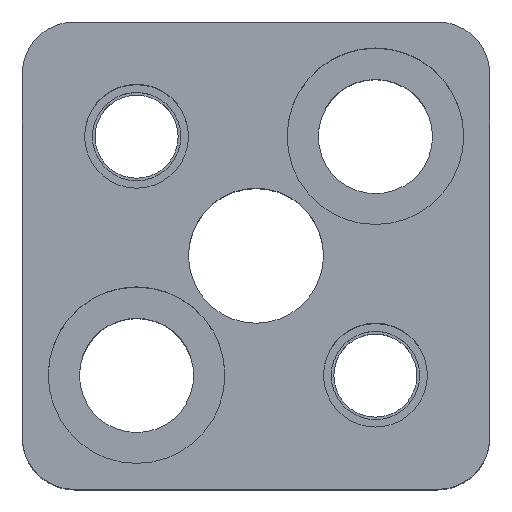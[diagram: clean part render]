
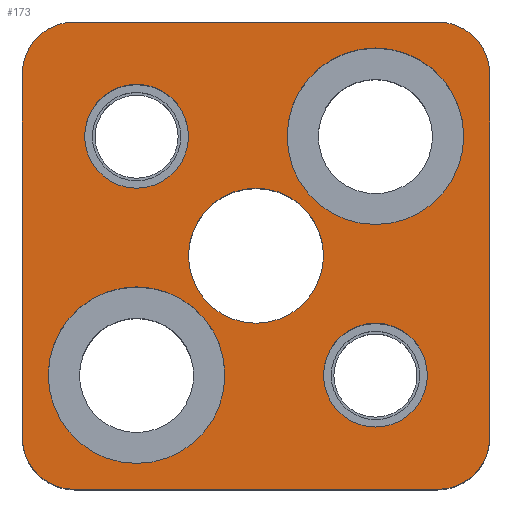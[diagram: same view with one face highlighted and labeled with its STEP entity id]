
A CAD part, top view. The second image highlights one B-rep face of the part: STEP entity #173.
In plain terms, the highlighted planar face has unit normal (0, 0, 1).
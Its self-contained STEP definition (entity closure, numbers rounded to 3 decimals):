
#112=PLANE('',#991);
#133=FACE_BOUND('',#298,.T.);
#134=FACE_BOUND('',#299,.T.);
#135=FACE_BOUND('',#300,.T.);
#136=FACE_BOUND('',#301,.T.);
#137=FACE_BOUND('',#302,.T.);
#138=FACE_BOUND('',#303,.T.);
#173=ADVANCED_FACE('',(#133,#134,#135,#136,#137,#138),#112,.T.);
#298=EDGE_LOOP('',(#490,#491,#492,#493,#494,#495,#496,#497));
#299=EDGE_LOOP('',(#498,#499));
#300=EDGE_LOOP('',(#500,#501));
#301=EDGE_LOOP('',(#502,#503));
#302=EDGE_LOOP('',(#504,#505));
#303=EDGE_LOOP('',(#506,#507));
#360=CIRCLE('',#955,5.);
#362=CIRCLE('',#958,5.);
#364=CIRCLE('',#962,5.);
#366=CIRCLE('',#965,5.);
#376=CIRCLE('',#981,5.);
#377=CIRCLE('',#982,5.);
#378=CIRCLE('',#983,5.);
#379=CIRCLE('',#984,5.);
#380=CIRCLE('',#985,8.5);
#381=CIRCLE('',#986,8.5);
#382=CIRCLE('',#987,8.5);
#383=CIRCLE('',#988,8.5);
#384=CIRCLE('',#989,6.5);
#385=CIRCLE('',#990,6.5);
#490=ORIENTED_EDGE('',*,*,#762,.T.);
#491=ORIENTED_EDGE('',*,*,#763,.T.);
#492=ORIENTED_EDGE('',*,*,#764,.T.);
#493=ORIENTED_EDGE('',*,*,#765,.T.);
#494=ORIENTED_EDGE('',*,*,#766,.T.);
#495=ORIENTED_EDGE('',*,*,#767,.T.);
#496=ORIENTED_EDGE('',*,*,#768,.T.);
#497=ORIENTED_EDGE('',*,*,#769,.T.);
#498=ORIENTED_EDGE('',*,*,#770,.F.);
#499=ORIENTED_EDGE('',*,*,#771,.F.);
#500=ORIENTED_EDGE('',*,*,#772,.F.);
#501=ORIENTED_EDGE('',*,*,#773,.F.);
#502=ORIENTED_EDGE('',*,*,#748,.F.);
#503=ORIENTED_EDGE('',*,*,#744,.F.);
#504=ORIENTED_EDGE('',*,*,#742,.F.);
#505=ORIENTED_EDGE('',*,*,#738,.F.);
#506=ORIENTED_EDGE('',*,*,#774,.T.);
#507=ORIENTED_EDGE('',*,*,#775,.T.);
#654=VERTEX_POINT('',#1377);
#655=VERTEX_POINT('',#1378);
#658=VERTEX_POINT('',#1390);
#659=VERTEX_POINT('',#1391);
#670=VERTEX_POINT('',#1427);
#671=VERTEX_POINT('',#1428);
#672=VERTEX_POINT('',#1430);
#673=VERTEX_POINT('',#1432);
#674=VERTEX_POINT('',#1434);
#675=VERTEX_POINT('',#1436);
#676=VERTEX_POINT('',#1438);
#677=VERTEX_POINT('',#1440);
#678=VERTEX_POINT('',#1443);
#679=VERTEX_POINT('',#1444);
#680=VERTEX_POINT('',#1447);
#681=VERTEX_POINT('',#1448);
#682=VERTEX_POINT('',#1451);
#683=VERTEX_POINT('',#1452);
#738=EDGE_CURVE('',#654,#655,#360,.T.);
#742=EDGE_CURVE('',#655,#654,#362,.T.);
#744=EDGE_CURVE('',#658,#659,#364,.T.);
#748=EDGE_CURVE('',#659,#658,#366,.T.);
#762=EDGE_CURVE('',#670,#671,#376,.T.);
#763=EDGE_CURVE('',#671,#672,#842,.T.);
#764=EDGE_CURVE('',#672,#673,#377,.T.);
#765=EDGE_CURVE('',#673,#674,#843,.T.);
#766=EDGE_CURVE('',#674,#675,#378,.T.);
#767=EDGE_CURVE('',#675,#676,#844,.T.);
#768=EDGE_CURVE('',#676,#677,#379,.T.);
#769=EDGE_CURVE('',#677,#670,#845,.T.);
#770=EDGE_CURVE('',#678,#679,#380,.T.);
#771=EDGE_CURVE('',#679,#678,#381,.T.);
#772=EDGE_CURVE('',#680,#681,#382,.T.);
#773=EDGE_CURVE('',#681,#680,#383,.T.);
#774=EDGE_CURVE('',#682,#683,#384,.T.);
#775=EDGE_CURVE('',#683,#682,#385,.T.);
#842=LINE('',#1429,#891);
#843=LINE('',#1433,#892);
#844=LINE('',#1437,#893);
#845=LINE('',#1441,#894);
#891=VECTOR('',#1174,1.);
#892=VECTOR('',#1177,1.);
#893=VECTOR('',#1180,1.);
#894=VECTOR('',#1183,1.);
#955=AXIS2_PLACEMENT_3D('',#1376,#1112,#1113);
#958=AXIS2_PLACEMENT_3D('',#1385,#1120,#1121);
#962=AXIS2_PLACEMENT_3D('',#1389,#1128,#1129);
#965=AXIS2_PLACEMENT_3D('',#1398,#1136,#1137);
#981=AXIS2_PLACEMENT_3D('',#1426,#1172,#1173);
#982=AXIS2_PLACEMENT_3D('',#1431,#1175,#1176);
#983=AXIS2_PLACEMENT_3D('',#1435,#1178,#1179);
#984=AXIS2_PLACEMENT_3D('',#1439,#1181,#1182);
#985=AXIS2_PLACEMENT_3D('',#1442,#1184,#1185);
#986=AXIS2_PLACEMENT_3D('',#1445,#1186,#1187);
#987=AXIS2_PLACEMENT_3D('',#1446,#1188,#1189);
#988=AXIS2_PLACEMENT_3D('',#1449,#1190,#1191);
#989=AXIS2_PLACEMENT_3D('',#1450,#1192,#1193);
#990=AXIS2_PLACEMENT_3D('',#1453,#1194,#1195);
#991=AXIS2_PLACEMENT_3D('',#1454,#1196,#1197);
#1112=DIRECTION('',(0.,0.,1.));
#1113=DIRECTION('',(-1.,0.,0.));
#1120=DIRECTION('',(0.,0.,1.));
#1121=DIRECTION('',(1.,0.,0.));
#1128=DIRECTION('',(0.,0.,1.));
#1129=DIRECTION('',(-1.,0.,0.));
#1136=DIRECTION('',(0.,0.,1.));
#1137=DIRECTION('',(1.,0.,0.));
#1172=DIRECTION('',(0.,0.,1.));
#1173=DIRECTION('',(-0.707,0.707,0.));
#1174=DIRECTION('',(0.,1.,0.));
#1175=DIRECTION('',(0.,0.,1.));
#1176=DIRECTION('',(-0.707,-0.707,0.));
#1177=DIRECTION('',(-1.,0.,0.));
#1178=DIRECTION('',(0.,0.,1.));
#1179=DIRECTION('',(0.707,-0.707,0.));
#1180=DIRECTION('',(0.,-1.,0.));
#1181=DIRECTION('',(0.,0.,1.));
#1182=DIRECTION('',(0.707,0.707,0.));
#1183=DIRECTION('',(1.,0.,0.));
#1184=DIRECTION('',(0.,0.,1.));
#1185=DIRECTION('',(1.,0.,0.));
#1186=DIRECTION('',(0.,0.,1.));
#1187=DIRECTION('',(-1.,0.,0.));
#1188=DIRECTION('',(0.,0.,1.));
#1189=DIRECTION('',(1.,0.,0.));
#1190=DIRECTION('',(0.,0.,1.));
#1191=DIRECTION('',(-1.,0.,0.));
#1192=DIRECTION('',(0.,0.,-1.));
#1193=DIRECTION('',(-1.,0.,0.));
#1194=DIRECTION('',(0.,0.,-1.));
#1195=DIRECTION('',(1.,0.,0.));
#1196=DIRECTION('',(0.,0.,1.));
#1197=DIRECTION('',(-1.,0.,0.));
#1376=CARTESIAN_POINT('',(11.5,-11.5,35.));
#1377=CARTESIAN_POINT('',(11.5,-16.5,35.));
#1378=CARTESIAN_POINT('',(11.5,-6.5,35.));
#1385=CARTESIAN_POINT('',(11.5,-11.5,35.));
#1389=CARTESIAN_POINT('',(-11.5,11.5,35.));
#1390=CARTESIAN_POINT('',(-11.5,6.5,35.));
#1391=CARTESIAN_POINT('',(-11.5,16.5,35.));
#1398=CARTESIAN_POINT('',(-11.5,11.5,35.));
#1426=CARTESIAN_POINT('',(17.5,-17.5,35.));
#1427=CARTESIAN_POINT('',(17.5,-22.5,35.));
#1428=CARTESIAN_POINT('',(22.5,-17.5,35.));
#1429=CARTESIAN_POINT('',(22.5,17.5,35.));
#1430=CARTESIAN_POINT('',(22.5,17.5,35.));
#1431=CARTESIAN_POINT('',(17.5,17.5,35.));
#1432=CARTESIAN_POINT('',(17.5,22.5,35.));
#1433=CARTESIAN_POINT('',(-17.5,22.5,35.));
#1434=CARTESIAN_POINT('',(-17.5,22.5,35.));
#1435=CARTESIAN_POINT('',(-17.5,17.5,35.));
#1436=CARTESIAN_POINT('',(-22.5,17.5,35.));
#1437=CARTESIAN_POINT('',(-22.5,17.5,35.));
#1438=CARTESIAN_POINT('',(-22.5,-17.5,35.));
#1439=CARTESIAN_POINT('',(-17.5,-17.5,35.));
#1440=CARTESIAN_POINT('',(-17.5,-22.5,35.));
#1441=CARTESIAN_POINT('',(-17.5,-22.5,35.));
#1442=CARTESIAN_POINT('',(11.5,11.5,35.));
#1443=CARTESIAN_POINT('',(11.5,20.,35.));
#1444=CARTESIAN_POINT('',(11.5,3.,35.));
#1445=CARTESIAN_POINT('',(11.5,11.5,35.));
#1446=CARTESIAN_POINT('',(-11.5,-11.5,35.));
#1447=CARTESIAN_POINT('',(-11.5,-3.,35.));
#1448=CARTESIAN_POINT('',(-11.5,-20.,35.));
#1449=CARTESIAN_POINT('',(-11.5,-11.5,35.));
#1450=CARTESIAN_POINT('',(0.,0.,35.));
#1451=CARTESIAN_POINT('',(0.,6.5,35.));
#1452=CARTESIAN_POINT('',(0.,-6.5,35.));
#1453=CARTESIAN_POINT('',(0.,0.,35.));
#1454=CARTESIAN_POINT('',(17.5,-22.5,35.));
